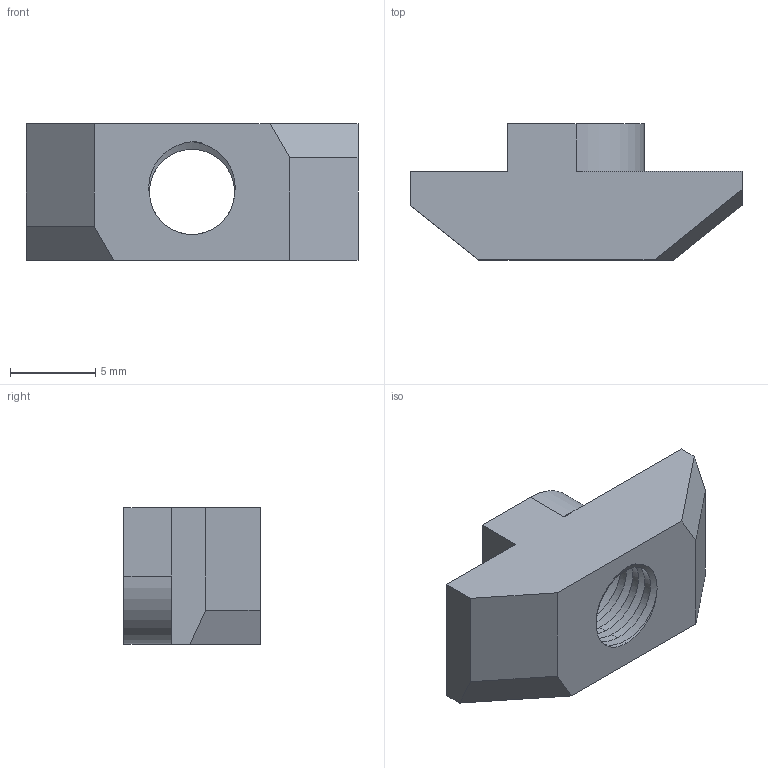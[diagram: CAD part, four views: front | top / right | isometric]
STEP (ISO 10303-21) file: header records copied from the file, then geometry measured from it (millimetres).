
FILE_DESCRIPTION (( 'STEP AP203' ), '1' );
FILE_NAME ('119-CE-TN-40.STEP', '2015-07-09T08:53:53', ( '' ), ( '' ), 'SwSTEP 2.0', 'SolidWorks 2013', '' );
FILE_SCHEMA (( 'CONFIG_CONTROL_DESIGN' ));
Length unit declared in the file: millimetre
Products named in the file (1): 119-CE-TN-40
Bounding box: 19.5 x 8 x 8 mm (x, y, z)
Volume: 687.4 mm3; surface area: 771.9 mm2
Topology: 1 solids, 1 shells, 36 faces, 102 edges, 68 vertices
Faces by surface type: cylinder 20, plane 14, bspline 2
Entity records: 2276 total; most frequent: CARTESIAN_POINT 1369, ORIENTED_EDGE 204, DIRECTION 141, EDGE_CURVE 102, VERTEX_POINT 68, LINE 55, VECTOR 55, AXIS2_PLACEMENT_3D 43
